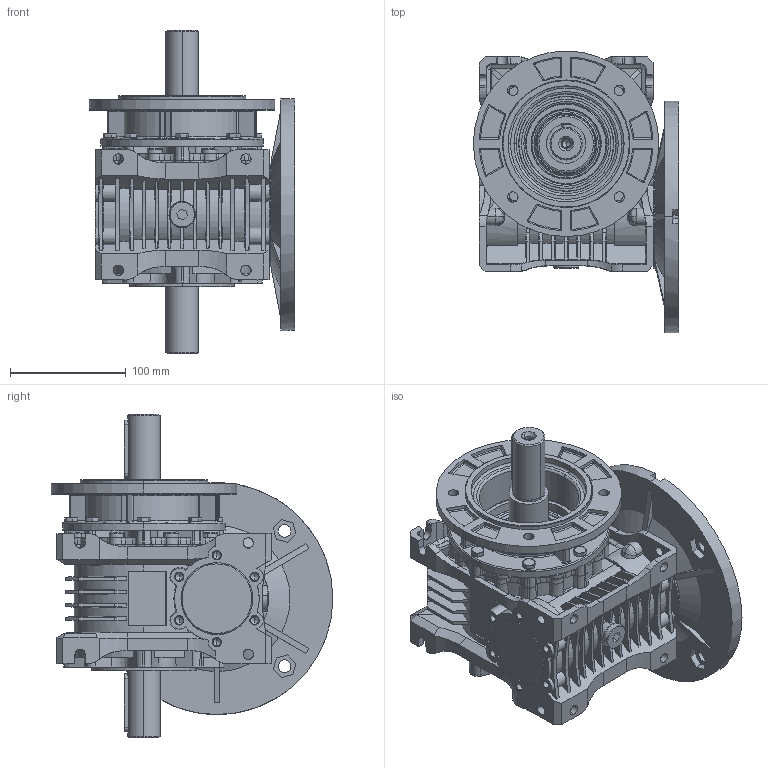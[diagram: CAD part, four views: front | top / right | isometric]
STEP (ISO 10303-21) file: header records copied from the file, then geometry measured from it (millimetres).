
FILE_DESCRIPTION (( 'STEP AP203' ), '1' );
FILE_NAME ('MR-63_200-19_K160-2_WD-2_3D.STEP', '2023-09-26T10:50:18', ( '' ), ( '' ), 'SwSTEP 2.0', 'SolidWorks 2022', '' );
FILE_SCHEMA (( 'CONFIG_CONTROL_DESIGN' ));
Products named in the file (1): MR-63_200-19_K160-2_WD-2_3D
Bounding box: 177 x 243 x 279 mm (x, y, z)
Volume: 38537.3 mm3; surface area: 449518 mm2
Topology: 60 solids, 61 shells, 3392 faces, 8556 edges, 5295 vertices
Faces by surface type: plane 1304, cone 794, cylinder 790, torus 280, bspline 130, sphere 94
Entity records: 106423 total; most frequent: CARTESIAN_POINT 26509, DIRECTION 16925, ORIENTED_EDGE 16832, EDGE_CURVE 8416, AXIS2_PLACEMENT_3D 6505, VERTEX_POINT 5275, VECTOR 3915, LINE 3915
